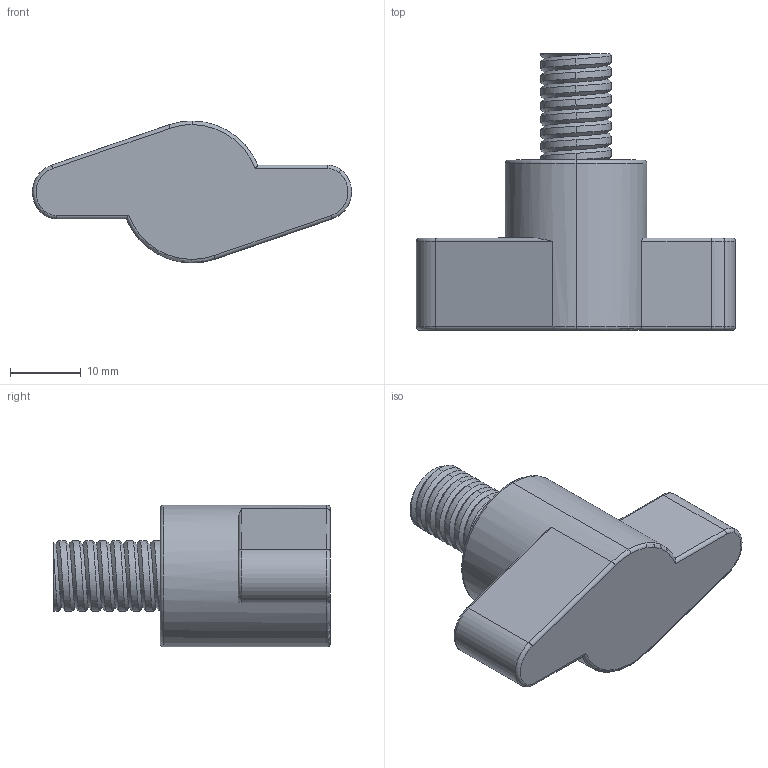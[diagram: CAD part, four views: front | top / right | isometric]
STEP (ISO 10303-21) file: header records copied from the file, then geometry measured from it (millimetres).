
FILE_DESCRIPTION (( 'STEP AP203' ), '1' );
FILE_NAME ('AP-2061-45-M10-15.STEP', '2015-11-23T07:31:05', ( '' ), ( '' ), 'SwSTEP 2.0', 'SolidWorks 2014', '' );
FILE_SCHEMA (( 'CONFIG_CONTROL_DESIGN' ));
Length unit declared in the file: millimetre
Products named in the file (1): AP-2061-45-M10-15
Bounding box: 44.98 x 39 x 20 mm (x, y, z)
Volume: 8428.3 mm3; surface area: 6068.3 mm2
Topology: 1 solids, 1 shells, 85 faces, 220 edges, 139 vertices
Faces by surface type: cylinder 45, plane 25, torus 13, bspline 2
Entity records: 3579 total; most frequent: CARTESIAN_POINT 1493, ORIENTED_EDGE 440, DIRECTION 424, EDGE_CURVE 220, AXIS2_PLACEMENT_3D 166, VERTEX_POINT 139, LINE 92, VECTOR 92
